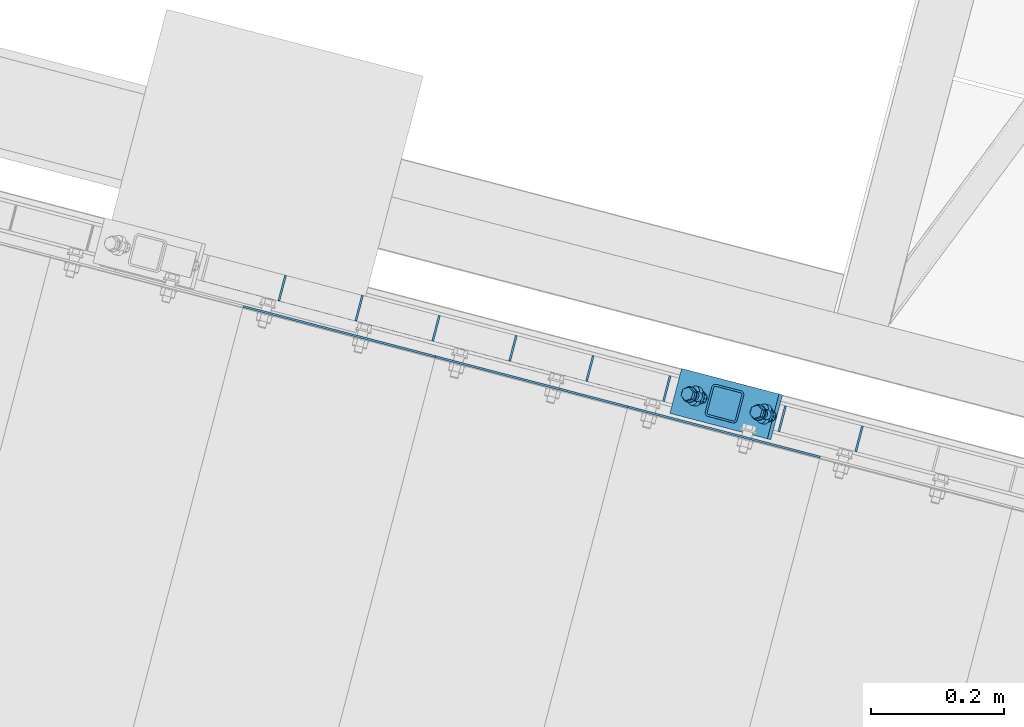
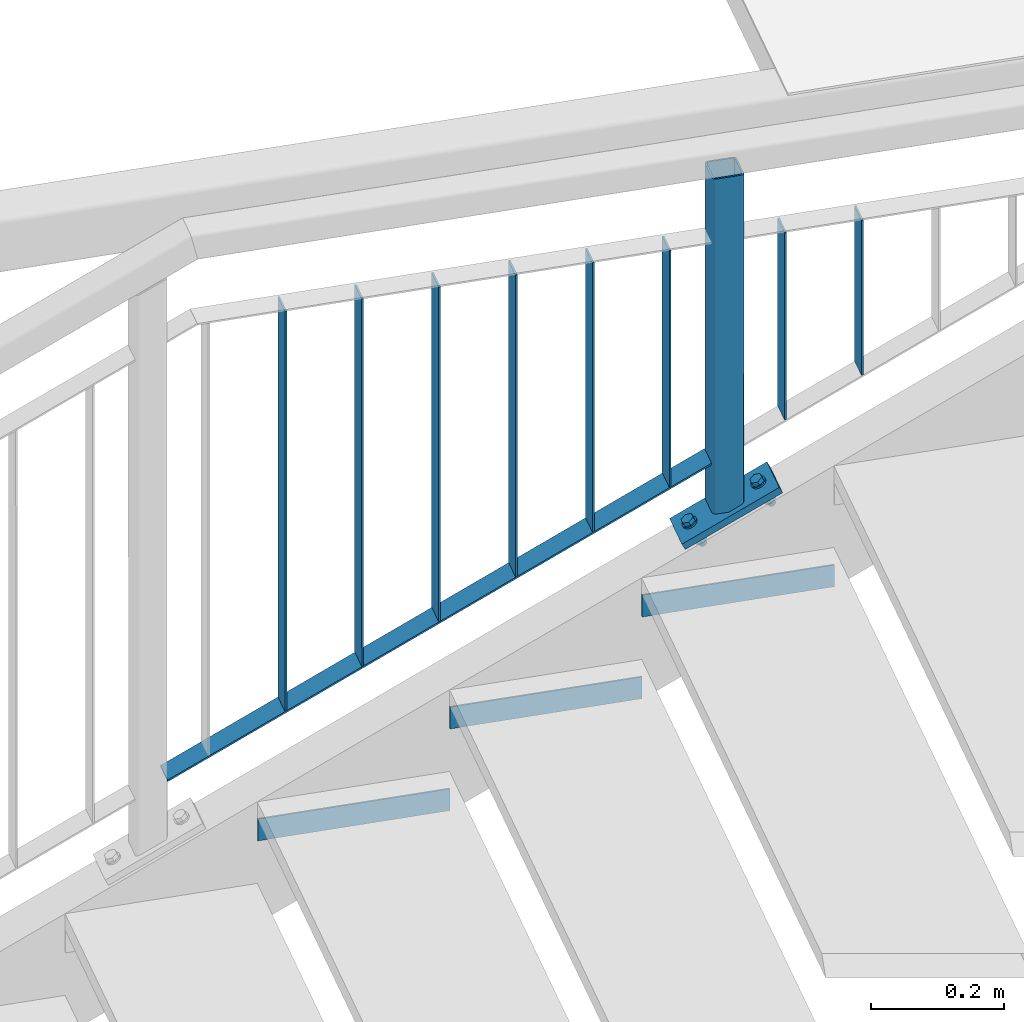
# One storey, part 77 of 169: 14 discrete accessories, 1 mechanical fastener, 4 elements without a shape of their own.
"""IFC2X3 building model written with IfcOpenShell, lengths in millimetres."""

import ifcopenshell
import ifcopenshell.guid

model = None  # the IFC model being written
_history = None  # IfcOwnerHistory: only IFC2X3 demands one
_inside = {}  # id of a spatial element -> (the spatial element, [elements in it])
_under = {}  # id of a project, library or spatial element -> (it, [spatial elements below it])
_declared = {}  # id of a project -> (the project, [libraries it declares])
_typed = {}  # id of a type object -> (the type object, [elements of that type])
_made_of = {}  # id of a material, layer set ... -> (it, [elements and type objects made of it])


def new_model(schema):
    """Start an empty IFC model of exactly this schema.

    Asked for "IFC4X3", IfcOpenShell would pick the latest addendum, in which some entities
    have other attributes; the version numbers below select the first issue.
    IFC2X3 requires an IfcOwnerHistory on every rooted entity: one is made here for all.
    """
    global model, _history
    if schema == "IFC4X3":
        model = ifcopenshell.file(schema_version=(4, 3, 0, 0))
    else:
        model = ifcopenshell.file(schema=schema)
    _inside.clear()
    _under.clear()
    _declared.clear()
    _typed.clear()
    _made_of.clear()
    _history = None
    if model.schema == "IFC2X3":
        org = make("IfcOrganization", Name="unknown")
        user = make(
            "IfcPersonAndOrganization",
            ThePerson=make("IfcPerson", FamilyName="unknown"),
            TheOrganization=org,
        )
        app = make(
            "IfcApplication",
            ApplicationDeveloper=org,
            Version="unknown",
            ApplicationFullName="unknown",
            ApplicationIdentifier="unknown",
        )
        _history = make(
            "IfcOwnerHistory",
            OwningUser=user,
            OwningApplication=app,
            ChangeAction="ADDED",
            CreationDate=0,
        )
    return model


def make(cls, **values):
    """One entity of the class cls with the attributes given. An attribute that is None is left unset."""
    return model.create_entity(
        cls, **{name: value for name, value in values.items() if value is not None}
    )


def rooted(cls, **values):
    """An entity with a GlobalId (a new one), such as an element, a storey or a relation."""
    return make(cls, GlobalId=ifcopenshell.guid.new(), OwnerHistory=_history, **values)


def si_unit(unit_type, name, prefix=None):
    """IfcSIUnit, for example si_unit("LENGTHUNIT", "METRE", prefix="MILLI")."""
    return make("IfcSIUnit", UnitType=unit_type, Prefix=prefix, Name=name)


def assignment(units):
    """IfcUnitAssignment: the units of a project."""
    return None if units is None else make("IfcUnitAssignment", Units=units)


def point(xyz):
    """IfcCartesianPoint."""
    return None if xyz is None else make("IfcCartesianPoint", Coordinates=xyz)


def direction(xyz):
    """IfcDirection."""
    return None if xyz is None else make("IfcDirection", DirectionRatios=xyz)


def frame(location, z_axis=None, x_axis=None):
    """IfcAxis2Placement3D, a coordinate frame: its origin and axes. An axis left out is left unset."""
    return make(
        "IfcAxis2Placement3D",
        Location=point(location),
        Axis=direction(z_axis),
        RefDirection=direction(x_axis),
    )


def frame_2d(location, x_axis=None):
    """IfcAxis2Placement2D, a coordinate frame in the plane: its origin and x axis."""
    return make(
        "IfcAxis2Placement2D", Location=point(location), RefDirection=direction(x_axis)
    )


def origin_with_axes():
    """The frame at (0, 0, 0) with the z axis (0, 0, 1) and the x axis (1, 0, 0) written out."""
    return frame((0.0, 0.0, 0.0), z_axis=(0.0, 0.0, 1.0), x_axis=(1.0, 0.0, 0.0))


def origin_2d_with_axis():
    """The frame at (0, 0) in the plane with the x axis (1, 0) written out."""
    return frame_2d((0.0, 0.0), x_axis=(1.0, 0.0))


def place(relative_to, where):
    """IfcLocalPlacement: puts the frame where relative to a parent placement (None: the world)."""
    return make(
        "IfcLocalPlacement", PlacementRelTo=relative_to, RelativePlacement=where
    )


def context(
    kind, dimensions, precision=None, world=None, true_north=None, identifier=None
):
    """IfcGeometricRepresentationContext, for example the 3D "Model" context."""
    return make(
        "IfcGeometricRepresentationContext",
        ContextIdentifier=identifier,
        ContextType=kind,
        CoordinateSpaceDimension=dimensions,
        Precision=precision,
        WorldCoordinateSystem=world,
        TrueNorth=true_north,
    )


def subcontext(parent, identifier, kind, view, scale=None):
    """IfcGeometricRepresentationSubContext, for example "Body" below "Model"."""
    return make(
        "IfcGeometricRepresentationSubContext",
        ContextIdentifier=identifier,
        ContextType=kind,
        ParentContext=parent,
        TargetScale=scale,
        TargetView=view,
    )


def project(units=None, contexts=None):
    """IfcProject with its units and contexts."""
    return rooted(
        "IfcProject",
        Name="project",
        RepresentationContexts=contexts,
        UnitsInContext=assignment(units),
    )


def spatial(cls, under=None, at=None, **own):
    """A site, building, storey or space (cls), placed at a placement, below another one or the project."""
    s = rooted(cls, ObjectPlacement=at, **own)
    if under is not None:
        _under.setdefault(under.id(), (under, []))[1].append(s)
    return s


def polyline(points):
    """IfcPolyline through the points."""
    return make("IfcPolyline", Points=[point(p) for p in points])


def circle_curve(where, radius):
    """IfcCircle in the frame where."""
    return make("IfcCircle", Position=where, Radius=radius)


def parameter(value):
    """IfcParameterValue: where a trimmed curve begins or ends, as a parameter of its basis curve."""
    return model.create_entity("IfcParameterValue", value)


def trimmed(basis, trim1, trim2, sense, master):
    """IfcTrimmedCurve: the piece of a basis curve between two trims."""
    return make(
        "IfcTrimmedCurve",
        BasisCurve=basis,
        Trim1=trim1,
        Trim2=trim2,
        SenseAgreement=sense,
        MasterRepresentation=master,
    )


def segment(curve, same_sense, transition):
    """IfcCompositeCurveSegment."""
    return make(
        "IfcCompositeCurveSegment",
        Transition=transition,
        SameSense=same_sense,
        ParentCurve=curve,
    )


def composite_curve(segments, self_intersect=None):
    """IfcCompositeCurve: segments joined end to end."""
    return make("IfcCompositeCurve", Segments=segments, SelfIntersect=self_intersect)


def profile(cls, at=None, kind="AREA", **sizes):
    """A parametric profile (cls). Its sizes go by their IFC names, for example OverallWidth=200.0."""
    return make(cls, ProfileType=kind, Position=at, **sizes)


def rectangle(**sizes):
    """IfcRectangleProfileDef."""
    return profile("IfcRectangleProfileDef", **sizes)


def hollow_rectangle(**sizes):
    """IfcRectangleHollowProfileDef."""
    return profile("IfcRectangleHollowProfileDef", **sizes)


def circle(**sizes):
    """IfcCircleProfileDef."""
    return profile("IfcCircleProfileDef", **sizes)


def outline(outer, holes=None, kind="AREA"):
    """IfcArbitraryClosedProfileDef: a profile drawn as a closed curve; with holes, ...WithVoids."""
    if holes is None:
        return make("IfcArbitraryClosedProfileDef", ProfileType=kind, OuterCurve=outer)
    return make(
        "IfcArbitraryProfileDefWithVoids",
        ProfileType=kind,
        OuterCurve=outer,
        InnerCurves=holes,
    )


def extrude(swept, where, along, depth):
    """IfcExtrudedAreaSolid: the profile swept, set in the frame where, extruded along a direction by depth."""
    return make(
        "IfcExtrudedAreaSolid",
        SweptArea=swept,
        Position=where,
        ExtrudedDirection=direction(along),
        Depth=depth,
    )


def boolean(op, a, b):
    """IfcBooleanResult of two solids."""
    return make("IfcBooleanResult", Operator=op, FirstOperand=a, SecondOperand=b)


def clip(a, b, op="DIFFERENCE"):
    """IfcBooleanClippingResult: the solid a cut by the half space b."""
    return make(
        "IfcBooleanClippingResult", Operator=op, FirstOperand=a, SecondOperand=b
    )


def halfspace(plane, agree):
    """IfcHalfSpaceSolid: all space on one side of the plane z = 0 of the frame plane."""
    return make(
        "IfcHalfSpaceSolid",
        BaseSurface=make("IfcPlane", Position=plane),
        AgreementFlag=agree,
    )


def shape(context_of_items, identifier, shape_type, items):
    """IfcShapeRepresentation: the items that make up one representation, for example the "Body"."""
    return make(
        "IfcShapeRepresentation",
        ContextOfItems=context_of_items,
        RepresentationIdentifier=identifier,
        RepresentationType=shape_type,
        Items=items,
    )


def source(mapping_origin, context_of_items, identifier, shape_type, items):
    """IfcRepresentationMap: a shape defined once, which mapped items show again and again."""
    return make(
        "IfcRepresentationMap",
        MappingOrigin=mapping_origin,
        MappedRepresentation=shape(context_of_items, identifier, shape_type, items),
    )


def transform(
    local_origin,
    x_axis=None,
    y_axis=None,
    z_axis=None,
    scale=None,
    scale2=None,
    scale3=None,
    uniform=True,
):
    """IfcCartesianTransformationOperator3D, or its non-uniform kind. x_axis, y_axis, z_axis: its Axis1, 2, 3."""
    if uniform:
        return make(
            "IfcCartesianTransformationOperator3D",
            Axis1=direction(x_axis),
            Axis2=direction(y_axis),
            LocalOrigin=point(local_origin),
            Scale=scale,
            Axis3=direction(z_axis),
        )
    return make(
        "IfcCartesianTransformationOperator3DnonUniform",
        Axis1=direction(x_axis),
        Axis2=direction(y_axis),
        LocalOrigin=point(local_origin),
        Scale=scale,
        Axis3=direction(z_axis),
        Scale2=scale2,
        Scale3=scale3,
    )


def mapped(mapping_source, mapping_target):
    """IfcMappedItem: shows the shape of a source again, moved by a transform."""
    return make(
        "IfcMappedItem", MappingSource=mapping_source, MappingTarget=mapping_target
    )


def material(Name=None, Category=None):
    """IfcMaterial."""
    return make("IfcMaterial", Name=Name, Category=Category)


def made_of(thing, what):
    """Note that an element or type object is made of a material, layer set ...; save() writes the relation."""
    if what is not None:
        _made_of.setdefault(what.id(), (what, []))[1].append(thing)
    return thing


def type_object(cls, material=None, **own):
    """A type object (cls), such as IfcWallType, which elements share."""
    return made_of(rooted(cls, **own), material)


def element(
    cls,
    number,
    at=None,
    inside=None,
    cuts=None,
    type_object=None,
    material=None,
    context=None,
    identifier="Body",
    shape_type=None,
    held_by="IfcProductDefinitionShape",
    body=None,
    shapes=None,
    **own,
):
    """One element of the class cls, such as IfcWall. Its Tag is "e" and its number.

    at: its placement. inside: the storey or other place that contains it. cuts: it is an
    opening in that element (IfcRelVoidsElement). A single representation is given by context,
    identifier, shape_type and body (its items); several are given by shapes. held_by: the class
    of the entity that holds the representations. save() writes the other relations.
    """
    e = rooted(cls, Tag="e%d" % number, ObjectPlacement=at, **own)
    if body is not None:
        shapes = [shape(context, identifier, shape_type, body)]
    if shapes is not None:
        e.Representation = make(held_by, Representations=shapes)
    if inside is not None:
        _inside.setdefault(inside.id(), (inside, []))[1].append(e)
    if cuts is not None:
        rooted(
            "IfcRelVoidsElement", RelatingBuildingElement=cuts, RelatedOpeningElement=e
        )
    if type_object is not None:
        _typed.setdefault(type_object.id(), (type_object, []))[1].append(e)
    return made_of(e, material)


def aggregate(whole, parts):
    """IfcRelAggregates: a whole, such as a stair, and the parts it consists of."""
    return rooted("IfcRelAggregates", RelatingObject=whole, RelatedObjects=parts)


def save(model, path):
    """Write the relations noted so far, then the file.

    IfcRelAggregates (storeys below a building ...), IfcRelContainedInSpatialStructure (elements
    in a storey), IfcRelDefinesByType, IfcRelAssociatesMaterial and IfcRelDeclares: one each for
    every whole, place, type object, material and project.
    """
    for whole, parts in _under.values():
        aggregate(whole, parts)
    for where, things in _inside.values():
        rooted(
            "IfcRelContainedInSpatialStructure",
            RelatedElements=things,
            RelatingStructure=where,
        )
    for kind, things in _typed.values():
        rooted("IfcRelDefinesByType", RelatedObjects=things, RelatingType=kind)
    for what, things in _made_of.values():
        rooted("IfcRelAssociatesMaterial", RelatedObjects=things, RelatingMaterial=what)
    for by, libraries in _declared.values():
        rooted("IfcRelDeclares", RelatingContext=by, RelatedDefinitions=libraries)
    model.write(path)


model = new_model("IFC2X3")

# Units and contexts
model_context = context("Model", 3, precision=1e-05, world=origin_with_axes())
body_context = subcontext(model_context, "Body", "Model", "MODEL_VIEW")
ifc_project = project(units=[si_unit("LENGTHUNIT", "METRE", prefix="MILLI"), si_unit("AREAUNIT", "SQUARE_METRE"), si_unit("VOLUMEUNIT", "CUBIC_METRE"), si_unit("MASSUNIT", "GRAM", prefix="KILO"), si_unit("TIMEUNIT", "SECOND"), si_unit("PLANEANGLEUNIT", "RADIAN"), si_unit("SOLIDANGLEUNIT", "STERADIAN"), si_unit("THERMODYNAMICTEMPERATUREUNIT", "DEGREE_CELSIUS"), si_unit("LUMINOUSINTENSITYUNIT", "LUMEN")], contexts=[model_context])

# Site, building, storey
site_placement = place(None, origin_with_axes())
site = spatial("IfcSite", under=ifc_project, at=site_placement, Name="Undefined", CompositionType="ELEMENT")
building_placement = place(site_placement, origin_with_axes())
building = spatial("IfcBuilding", under=site, at=building_placement, Name="Undefined", CompositionType="ELEMENT")
storey_placement = place(building_placement, origin_with_axes())
storey = spatial("IfcBuildingStorey", under=building, at=storey_placement, Name="Undefined", CompositionType="ELEMENT", Elevation=0.0)

# Assembly, discrete accessories
assembly_1_placement = place(storey_placement, origin_with_axes())
assembly_1 = element("IfcElementAssembly", 1, at=assembly_1_placement, inside=storey, Name="Steel Assembly", AssemblyPlace="NOTDEFINED", PredefinedType="RIGID_FRAME")
ifc_material_1 = material(Name="STEEL/S235")
discrete_accessory_type_1 = type_object("IfcDiscreteAccessoryType", Name="BLACHA")
discrete_accessory_1_placement = place(assembly_1_placement, frame((-25684.8352355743, 8278.68986699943, 13359.2877731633), z_axis=(-0.432715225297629, 0.11294923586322, 0.894427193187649), x_axis=(0.252628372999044, 0.967563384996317, 3.42100000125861e-05)))
discrete_accessory_1 = element("IfcDiscreteAccessory", 2, at=discrete_accessory_1_placement, type_object=discrete_accessory_type_1, material=ifc_material_1, Name="BLACHA", ObjectType="BL12*170", context=body_context, shape_type="SweptSolid", body=[
    extrude(outline(polyline([(5.82076609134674e-11, 84.99999999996), (70.0000000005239, 84.9999999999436), (70.0000000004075, -84.9999999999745), (-5.82076609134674e-11, -84.99999999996), (5.82076609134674e-11, 84.99999999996)])), frame((-1.81898942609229e-12, -1.81898940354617e-12, -5.99999999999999), z_axis=(0.0, 0.0, 1.0), x_axis=(1.0, 0.0, 0.0)), (0.0, 0.0, 1.0), 12.0),
])
discrete_accessory_type_2 = type_object("IfcDiscreteAccessoryType", Name="PORĘCZ")
discrete_accessory_2_placement = place(assembly_1_placement, frame((-26346.1836457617, 8487.64017047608, 14076.9945107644), z_axis=(-0.967563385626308, 0.252628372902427, -1.72000000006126e-07), x_axis=(-3.45692487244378e-05, -0.000132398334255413, -0.999999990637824)))
discrete_accessory_2 = element("IfcDiscreteAccessory", 3, at=discrete_accessory_2_placement, type_object=discrete_accessory_type_2, material=ifc_material_1, Name="PORĘCZ", ObjectType="BL40*3", context=body_context, shape_type="Clipping", body=[
    clip(clip(extrude(outline(polyline([(953.32294910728, 20.0000000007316), (953.322949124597, -19.9999999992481), (218.500000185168, -19.9999999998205), (218.500000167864, 20.0000000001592), (953.32294910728, 20.0000000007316)])), frame((1.81898940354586e-12, -1.77635442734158e-15, -1.50000000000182), z_axis=(0.0, 0.0, 1.0), x_axis=(1.0, 0.0, 0.0)), (0.0, 0.0, 1.0), 3.0), halfspace(frame((218.499999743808, 1000.00000000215, -1.06592779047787e-08), z_axis=(1.0, 0.0, 0.0), x_axis=(-2.54700353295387e-10, 0.0, -1.0)), True)), halfspace(frame((953.658358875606, 1000.00000000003, 0.670820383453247), z_axis=(-0.89442719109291, -3.87067713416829e-10, 0.44721359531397), x_axis=(0.44721359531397, 3.3177479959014e-10, 0.89442719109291)), True)),
])
discrete_accessory_3_placement = place(assembly_1_placement, frame((-26230.0739653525, 8457.33270963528, 14136.9945101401), z_axis=(-0.967563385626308, 0.252628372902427, -1.72000000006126e-07), x_axis=(-3.45692487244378e-05, -0.000132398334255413, -0.999999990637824)))
discrete_accessory_3 = element("IfcDiscreteAccessory", 4, at=discrete_accessory_3_placement, type_object=discrete_accessory_type_2, material=ifc_material_1, Name="PORĘCZ", ObjectType="BL40*3", context=body_context, shape_type="Clipping", body=[
    clip(clip(extrude(outline(polyline([(953.32294910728, 20.0000000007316), (953.322949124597, -19.9999999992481), (278.500000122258, -19.9999999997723), (278.500000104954, 20.0000000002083), (953.32294910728, 20.0000000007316)])), frame((1.81898940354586e-12, -1.77635442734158e-15, -1.50000000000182), z_axis=(0.0, 0.0, 1.0), x_axis=(1.0, 0.0, 0.0)), (0.0, 0.0, 1.0), 3.0), halfspace(frame((278.499999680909, 1000.00000000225, -1.10776454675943e-08), z_axis=(1.0, 0.0, 0.0), x_axis=(-2.54700353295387e-10, 0.0, -1.0)), True)), halfspace(frame((953.658358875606, 1000.00000000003, 0.670820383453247), z_axis=(-0.89442719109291, -3.87067713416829e-10, 0.44721359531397), x_axis=(0.44721359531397, 3.3177479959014e-10, 0.89442719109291)), True)),
])
discrete_accessory_4_placement = place(assembly_1_placement, frame((-26113.9642849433, 8427.02524879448, 14196.9945095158), z_axis=(-0.967563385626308, 0.252628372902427, -1.72000000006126e-07), x_axis=(-3.45692487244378e-05, -0.000132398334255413, -0.999999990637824)))
discrete_accessory_4 = element("IfcDiscreteAccessory", 5, at=discrete_accessory_4_placement, type_object=discrete_accessory_type_2, material=ifc_material_1, Name="PORĘCZ", ObjectType="BL40*3", context=body_context, shape_type="Clipping", body=[
    clip(clip(extrude(outline(polyline([(953.32294910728, 20.0000000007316), (953.322949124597, -19.9999999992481), (338.500000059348, -19.9999999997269), (338.500000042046, 20.0000000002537), (953.32294910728, 20.0000000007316)])), frame((1.81898940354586e-12, -1.77635442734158e-15, -1.50000000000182), z_axis=(0.0, 0.0, 1.0), x_axis=(1.0, 0.0, 0.0)), (0.0, 0.0, 1.0), 3.0), halfspace(frame((338.499999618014, 1000.00000000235, -1.14960130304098e-08), z_axis=(1.0, 0.0, 0.0), x_axis=(-2.54700353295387e-10, 0.0, -1.0)), True)), halfspace(frame((953.658358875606, 1000.00000000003, 0.670820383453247), z_axis=(-0.89442719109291, -3.87067713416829e-10, 0.44721359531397), x_axis=(0.44721359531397, 3.3177479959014e-10, 0.89442719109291)), True)),
])
discrete_accessory_5_placement = place(assembly_1_placement, frame((-25997.8546045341, 8396.71778795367, 14256.9945088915), z_axis=(-0.967563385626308, 0.252628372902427, -1.72000000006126e-07), x_axis=(-3.45692487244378e-05, -0.000132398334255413, -0.999999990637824)))
discrete_accessory_5 = element("IfcDiscreteAccessory", 6, at=discrete_accessory_5_placement, type_object=discrete_accessory_type_2, material=ifc_material_1, Name="PORĘCZ", ObjectType="BL40*3", context=body_context, shape_type="Clipping", body=[
    clip(clip(extrude(outline(polyline([(953.32294910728, 20.0000000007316), (953.322949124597, -19.9999999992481), (398.49999999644, -19.9999999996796), (398.499999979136, 20.0000000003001), (953.32294910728, 20.0000000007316)])), frame((1.81898940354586e-12, -1.77635442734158e-15, -1.50000000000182), z_axis=(0.0, 0.0, 1.0), x_axis=(1.0, 0.0, 0.0)), (0.0, 0.0, 1.0), 3.0), halfspace(frame((398.499999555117, 1000.00000000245, -1.19107426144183e-08), z_axis=(1.0, 0.0, 0.0), x_axis=(-2.54700353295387e-10, 0.0, -1.0)), True)), halfspace(frame((953.658358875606, 1000.00000000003, 0.670820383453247), z_axis=(-0.89442719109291, -3.87067713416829e-10, 0.44721359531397), x_axis=(0.44721359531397, 3.3177479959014e-10, 0.89442719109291)), True)),
])
discrete_accessory_6_placement = place(assembly_1_placement, frame((-25881.7449241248, 8366.41032711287, 14316.9945082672), z_axis=(-0.967563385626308, 0.252628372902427, -1.72000000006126e-07), x_axis=(-3.45692487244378e-05, -0.000132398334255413, -0.999999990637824)))
discrete_accessory_6 = element("IfcDiscreteAccessory", 7, at=discrete_accessory_6_placement, type_object=discrete_accessory_type_2, material=ifc_material_1, Name="PORĘCZ", ObjectType="BL40*3", context=body_context, shape_type="Clipping", body=[
    clip(clip(extrude(outline(polyline([(953.32294910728, 20.0000000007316), (953.322949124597, -19.9999999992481), (458.49999993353, -19.9999999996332), (458.499999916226, 20.0000000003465), (953.32294910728, 20.0000000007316)])), frame((1.81898940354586e-12, -1.77635442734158e-15, -1.50000000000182), z_axis=(0.0, 0.0, 1.0), x_axis=(1.0, 0.0, 0.0)), (0.0, 0.0, 1.0), 3.0), halfspace(frame((458.499999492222, 1000.00000000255, -1.23291101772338e-08), z_axis=(1.0, 0.0, 0.0), x_axis=(-2.54700353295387e-10, 0.0, -1.0)), True)), halfspace(frame((953.658358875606, 1000.00000000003, 0.670820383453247), z_axis=(-0.89442719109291, -3.87067713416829e-10, 0.44721359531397), x_axis=(0.44721359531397, 3.3177479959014e-10, 0.89442719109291)), True)),
])
discrete_accessory_7_placement = place(assembly_1_placement, frame((-25765.6525281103, 8336.03666725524, 13876.9945123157), z_axis=(-0.967563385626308, 0.252628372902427, -1.72000000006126e-07), x_axis=(-3.45692487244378e-05, -0.000132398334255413, -0.999999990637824)))
discrete_accessory_7 = element("IfcDiscreteAccessory", 8, at=discrete_accessory_7_placement, type_object=discrete_accessory_type_2, material=ifc_material_1, Name="PORĘCZ", ObjectType="BL40*3", context=body_context, shape_type="Clipping", body=[
    clip(clip(extrude(outline(polyline([(453.32294900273, 19.9999999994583), (453.322948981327, -20.0000000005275), (18.4999998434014, -20.0000000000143), (18.4999998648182, 19.9999999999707), (453.32294900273, 19.9999999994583)])), frame((1.81898940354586e-12, -1.77635442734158e-15, -1.50000000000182), z_axis=(0.0, 0.0, 1.0), x_axis=(1.0, 0.0, 0.0)), (0.0, 0.0, 1.0), 3.0), halfspace(frame((18.5000003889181, 1000.0000000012, -1.23618519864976e-08), z_axis=(1.0, 0.0, 0.0), x_axis=(-2.54700353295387e-10, 0.0, -1.0)), True)), halfspace(frame((453.658359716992, 1000.00000000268, 0.670820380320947), z_axis=(-0.89442719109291, -3.87067713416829e-10, 0.44721359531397), x_axis=(0.44721359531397, 3.3177479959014e-10, 0.89442719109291)), True)),
])
discrete_accessory_8_placement = place(assembly_1_placement, frame((-25591.484549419, 8290.58871548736, 14066.9945110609), z_axis=(-0.967563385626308, 0.252628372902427, -1.72000000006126e-07), x_axis=(-3.45692487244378e-05, -0.000132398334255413, -0.999999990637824)))
discrete_accessory_8 = element("IfcDiscreteAccessory", 9, at=discrete_accessory_8_placement, type_object=discrete_accessory_type_2, material=ifc_material_1, Name="PORĘCZ", ObjectType="BL40*3", context=body_context, shape_type="Clipping", body=[
    clip(clip(extrude(outline(polyline([(553.322949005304, 19.9999999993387), (553.3229489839, -20.0000000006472), (208.500000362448, -20.0000000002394), (208.500000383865, 19.9999999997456), (553.322949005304, 19.9999999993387)])), frame((1.81898940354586e-12, -1.77635442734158e-15, -1.50000000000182), z_axis=(0.0, 0.0, 1.0), x_axis=(1.0, 0.0, 0.0)), (0.0, 0.0, 1.0), 3.0), halfspace(frame((208.500000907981, 1000.00000000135, -1.29948602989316e-08), z_axis=(1.0, 0.0, 0.0), x_axis=(-2.54700353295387e-10, 0.0, -1.0)), True)), halfspace(frame((553.658359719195, 1000.00000000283, 0.67082037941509), z_axis=(-0.89442719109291, -3.87067713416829e-10, 0.44721359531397), x_axis=(0.44721359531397, 3.3177479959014e-10, 0.89442719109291)), True)),
])
discrete_accessory_9_placement = place(assembly_1_placement, frame((-25475.3783258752, 8260.2680148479, 14026.9945113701), z_axis=(-0.967563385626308, 0.252628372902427, -1.72000000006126e-07), x_axis=(-3.45692487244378e-05, -0.000132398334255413, -0.999999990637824)))
discrete_accessory_9 = element("IfcDiscreteAccessory", 10, at=discrete_accessory_9_placement, type_object=discrete_accessory_type_2, material=ifc_material_1, Name="PORĘCZ", ObjectType="BL40*3", context=body_context, shape_type="Clipping", body=[
    clip(clip(extrude(outline(polyline([(453.32294900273, 19.9999999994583), (453.322948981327, -20.0000000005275), (168.500000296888, -20.0000000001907), (168.500000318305, 19.9999999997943), (453.32294900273, 19.9999999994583)])), frame((1.81898940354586e-12, -1.77635442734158e-15, -1.50000000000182), z_axis=(0.0, 0.0, 1.0), x_axis=(1.0, 0.0, 0.0)), (0.0, 0.0, 1.0), 3.0), halfspace(frame((168.500000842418, 1000.00000000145, -1.34132278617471e-08), z_axis=(1.0, 0.0, 0.0), x_axis=(-2.54700353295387e-10, 0.0, -1.0)), True)), halfspace(frame((453.658359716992, 1000.00000000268, 0.670820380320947), z_axis=(-0.89442719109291, -3.87067713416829e-10, 0.44721359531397), x_axis=(0.44721359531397, 3.3177479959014e-10, 0.89442719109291)), True)),
])
discrete_accessory_10_placement = place(assembly_1_placement, frame((-26549.4086002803, 8540.55178653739, 13016.9945205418), z_axis=(-0.252628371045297, -0.967563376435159, 0.000136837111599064), x_axis=(0.8654304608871, -0.225898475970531, 0.447213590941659)))
discrete_accessory_10 = element("IfcDiscreteAccessory", 11, at=discrete_accessory_10_placement, type_object=discrete_accessory_type_2, material=ifc_material_1, Name="PORĘCZ", ObjectType="BL40*3", context=body_context, shape_type="CSG", body=[
    boolean("DIFFERENCE", boolean("DIFFERENCE", boolean("DIFFERENCE", boolean("DIFFERENCE", extrude(rectangle(XDim=3.0, YDim=40.0, at=origin_2d_with_axis()), frame((996.331218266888, -5.53074929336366e-14, -2.49744430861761e-13), z_axis=(-1.0, -3.46944695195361e-18, -1.38777878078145e-17), x_axis=(1.73472347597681e-18, -1.0, 0.0)), (0.0, 0.0, 1.0), 986.43), extrude(rectangle(XDim=51.0, YDim=51.0, at=origin_2d_with_axis()), frame((62.609903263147, 125.219806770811, -1.03546508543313e-07), z_axis=(-0.44721359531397, -0.89442719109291, 6.42512531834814e-12), x_axis=(0.894427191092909, -0.447213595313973, -3.67723235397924e-10)), (0.0, 0.0, 1.0), 280.0)), extrude(rectangle(XDim=51.0, YDim=51.0, at=origin_2d_with_axis()), frame((1068.84049431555, 125.219806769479, -4.89614646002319e-07), z_axis=(-0.44721359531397, -0.89442719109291, 6.42512531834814e-12), x_axis=(0.894427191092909, -0.447213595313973, -3.67723235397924e-10)), (0.0, 0.0, 1.0), 280.0)), halfspace(frame((983.86991090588, 11.1803398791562, 999.999999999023), z_axis=(-0.89442719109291, 0.44721359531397, 3.67724048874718e-10), x_axis=(-0.44721359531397, -0.89442719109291, 6.42512531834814e-12)), True)), halfspace(frame((22.36067942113, -11.1803398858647, 1000.00000000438), z_axis=(0.894427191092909, -0.447213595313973, -3.67723235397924e-10), x_axis=(0.447213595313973, 0.894427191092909, -6.42523900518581e-12)), True)),
])
discrete_accessory_type_3 = type_object("IfcDiscreteAccessoryType", Name="STANCHION")
discrete_accessory_11_placement = place(assembly_1_placement, frame((-25678.5900406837, 8313.23033980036, 13349.994517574), z_axis=(3.4552000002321e-05, 0.000132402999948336, 0.999999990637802), x_axis=(0.252628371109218, 0.967563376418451, -0.000136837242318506)))
discrete_accessory_11 = element("IfcDiscreteAccessory", 12, at=discrete_accessory_11_placement, type_object=discrete_accessory_type_3, material=ifc_material_1, Name="STANCHION", ObjectType="SHS50*3", context=body_context, shape_type="Clipping", body=[
    clip(clip(extrude(hollow_rectangle(XDim=50.0, YDim=50.0, WallThickness=3.0, InnerFilletRadius=3.0, OuterFilletRadius=6.0, at=origin_2d_with_axis()), frame((1.4210854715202e-13, -3.63798043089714e-12, 629.999999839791), z_axis=(-2.54700353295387e-10, 0.0, -1.0), x_axis=(0.0, 1.0, 0.0)), (0.0, 0.0, 1.0), 615.34), halfspace(frame((999.999999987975, -1.62071955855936e-08, 629.999999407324), z_axis=(-2.54700353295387e-10, 0.0, -1.0), x_axis=(0.0, 1.0, 0.0)), True)), halfspace(frame((999.999067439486, 2.68328154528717, 13.4904219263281), z_axis=(-0.00015298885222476, 0.447213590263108, 0.894427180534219), x_axis=(-7.64941891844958e-05, -0.894427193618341, 0.447213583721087)), True)),
])

# Assembly, discrete accessory
assembly_2_placement = place(storey_placement, origin_with_axes())
assembly_2 = element("IfcElementAssembly", 13, at=assembly_2_placement, inside=storey, Name="Steel Assembly", AssemblyPlace="NOTDEFINED", PredefinedType="RIGID_FRAME")
ifc_material_2 = material(Name="STEEL/S235JR")
discrete_accessory_type_4 = type_object("IfcDiscreteAccessoryType", Name="ANGLE")
discrete_accessory_12_placement = place(assembly_2_placement, frame((-25824.5816332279, 8308.44723811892, 13230.0957858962), z_axis=(-0.252562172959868, -0.967580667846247, 0.0), x_axis=(0.967580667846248, -0.252562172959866, 0.0)))
discrete_accessory_12 = element("IfcDiscreteAccessory", 14, at=discrete_accessory_12_placement, type_object=discrete_accessory_type_4, material=ifc_material_2, Name="ANGLE", ObjectType="3*40", context=body_context, shape_type="SweptSolid", body=[
    extrude(rectangle(XDim=40.0, YDim=3.0, at=origin_2d_with_axis()), frame((300.000000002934, 1.81898940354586e-12, -1.81898940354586e-12), z_axis=(-1.0, -3.46944695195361e-18, -1.38777878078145e-17), x_axis=(1.73472347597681e-18, -1.0, 0.0)), (0.0, 0.0, 1.0), 300.0),
])
aggregate(assembly_2, [discrete_accessory_12])

assembly_3_placement = place(storey_placement, origin_with_axes())
assembly_3 = element("IfcElementAssembly", 15, at=assembly_3_placement, inside=storey, Name="Steel Assembly", AssemblyPlace="NOTDEFINED", PredefinedType="RIGID_FRAME")
discrete_accessory_13_placement = place(assembly_3_placement, frame((-26114.8558369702, 8384.21589092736, 13080.0957858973), z_axis=(-0.252562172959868, -0.967580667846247, 0.0), x_axis=(0.967580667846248, -0.252562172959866, 0.0)))
discrete_accessory_13 = element("IfcDiscreteAccessory", 16, at=discrete_accessory_13_placement, type_object=discrete_accessory_type_4, material=ifc_material_2, Name="ANGLE", ObjectType="3*40", context=body_context, shape_type="SweptSolid", body=[
    extrude(rectangle(XDim=40.0, YDim=3.0, at=origin_2d_with_axis()), frame((300.000000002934, 1.81898940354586e-12, -1.81898940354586e-12), z_axis=(-1.0, -3.46944695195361e-18, -1.38777878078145e-17), x_axis=(1.73472347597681e-18, -1.0, 0.0)), (0.0, 0.0, 1.0), 300.0),
])
aggregate(assembly_3, [discrete_accessory_13])

assembly_4_placement = place(storey_placement, origin_with_axes())
assembly_4 = element("IfcElementAssembly", 17, at=assembly_4_placement, inside=storey, Name="Steel Assembly", AssemblyPlace="NOTDEFINED", PredefinedType="RIGID_FRAME")
discrete_accessory_14_placement = place(assembly_4_placement, frame((-26405.1300407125, 8459.98454373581, 12930.0957858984), z_axis=(-0.252562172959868, -0.967580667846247, 0.0), x_axis=(0.967580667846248, -0.252562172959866, 0.0)))
discrete_accessory_14 = element("IfcDiscreteAccessory", 18, at=discrete_accessory_14_placement, type_object=discrete_accessory_type_4, material=ifc_material_2, Name="ANGLE", ObjectType="3*40", context=body_context, shape_type="SweptSolid", body=[
    extrude(rectangle(XDim=40.0, YDim=3.0, at=origin_2d_with_axis()), frame((300.000000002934, 1.81898940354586e-12, -1.81898940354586e-12), z_axis=(-1.0, -3.46944695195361e-18, -1.38777878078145e-17), x_axis=(1.73472347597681e-18, -1.0, 0.0)), (0.0, 0.0, 1.0), 300.0),
])
aggregate(assembly_4, [discrete_accessory_14])

# Mechanical fastener
ifc_material_3 = material(Name="Undefined")
discrete_accessory_type_5 = type_object("IfcDiscreteAccessoryType", Name="Bolt assembly")
shared_shape = source(origin_with_axes(), body_context, "Body", "SweptSolid", [
    extrude(outline(composite_curve([segment(polyline([(-7.5, 7.5), (7.5, 7.5)]), True, "CONTINUOUS"), segment(trimmed(circle_curve(frame_2d((7.5, 0.0), x_axis=(0.0, 1.0)), 7.5), [parameter(0.0)], [parameter(3.14159265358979)], False, "PARAMETER"), True, "CONTINUOUS"), segment(polyline([(7.5, -7.5), (-7.5, -7.5)]), True, "CONTINUOUS"), segment(trimmed(circle_curve(frame_2d((-7.5, 0.0), x_axis=(0.0, -1.0)), 7.5), [parameter(0.0)], [parameter(3.14159265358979)], False, "PARAMETER"), True, "DISCONTINUOUS")], self_intersect=False)), frame((0.0, 0.649999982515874, 0.0), z_axis=(0.0, 1.0, 0.0), x_axis=(1.0, 0.0, 0.0)), (0.0, 0.0, 1.0), 11.6),
    extrude(outline(composite_curve([segment(polyline([(7.5, 7.5), (7.5, -7.5)]), True, "CONTINUOUS"), segment(trimmed(circle_curve(frame_2d((0.0, -7.5), x_axis=(1.0, 0.0)), 7.5), [parameter(0.0)], [parameter(3.14159265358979)], False, "PARAMETER"), True, "CONTINUOUS"), segment(polyline([(-7.5, -7.5), (-7.5, 7.5)]), True, "CONTINUOUS"), segment(trimmed(circle_curve(frame_2d((0.0, 7.5), x_axis=(-1.0, 0.0)), 7.5), [parameter(0.0)], [parameter(3.14159265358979)], False, "PARAMETER"), True, "DISCONTINUOUS")], self_intersect=False)), frame((0.0, -12.1500000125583, 0.0), z_axis=(0.0, 1.0, 0.0), x_axis=(1.0, 0.0, 0.0)), (0.0, 0.0, 1.0), 12.0),
    extrude(outline(polyline([(10.39230484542, 0.0), (5.19615242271, 9.00000000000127), (-5.19615242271, 9.00000000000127), (-10.39230484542, 0.0), (-5.19615242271, -9.00000000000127), (5.19615242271, -9.00000000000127), (10.39230484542, 0.0)])), frame((0.0, -22.7500000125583, 0.0), z_axis=(0.0, 1.0, 0.0), x_axis=(1.0, 0.0, 0.0)), (0.0, 0.0, 1.0), 7.5),
    extrude(circle(Radius=6.0, at=origin_2d_with_axis()), frame((0.0, -15.2500000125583, 0.0), z_axis=(0.0, 1.0, 0.0), x_axis=(1.0, 0.0, 0.0)), (0.0, 0.0, 1.0), 50.0),
    extrude(circle(Radius=12.0, at=origin_2d_with_axis()), frame((0.0, -15.2500000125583, 0.0), z_axis=(0.0, 1.0, 0.0), x_axis=(1.0, 0.0, 0.0)), (0.0, 0.0, 1.0), 3.0),
    extrude(circle(Radius=12.0, at=origin_2d_with_axis()), frame((0.0, 12.2499999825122, 0.0), z_axis=(0.0, 1.0, 0.0), x_axis=(1.0, 0.0, 0.0)), (0.0, 0.0, 1.0), 3.0),
    extrude(outline(polyline([(10.96965511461, 0.0), (5.484827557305, 9.50000000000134), (-5.484827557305, 9.50000000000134), (-10.96965511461, 0.0), (-5.484827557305, -9.50000000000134), (5.484827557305, -9.50000000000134), (10.96965511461, 0.0)])), frame((0.0, 15.2499999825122, 0.0), z_axis=(0.0, 1.0, 0.0), x_axis=(1.0, 0.0, 0.0)), (0.0, 0.0, 1.0), 10.0),
])
mechanical_fastener_placement = place(assembly_1_placement, frame((-25666.9730629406, 8336.03773772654, 13353.6996557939), z_axis=(0.86541113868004, -0.22597248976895, 0.447213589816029), x_axis=(-0.252628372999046, -0.967563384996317, -3.42099999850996e-05)))
mechanical_fastener = element("IfcMechanicalFastener", 19, at=mechanical_fastener_placement, type_object=discrete_accessory_type_5, material=ifc_material_3, Name="Bolt assembly", NominalDiameter=12.0, NominalLength=50.0, context=body_context, shape_type="MappedRepresentation", body=[
    mapped(shared_shape, transform((24.9999999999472, 0.0, -60.0000000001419))),
    mapped(shared_shape, transform((24.9999999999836, -3.54702933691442e-11, 60.0000000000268))),
])

aggregate(assembly_1, [discrete_accessory_2, discrete_accessory_3, discrete_accessory_4, discrete_accessory_5, discrete_accessory_6, discrete_accessory_7, discrete_accessory_8, discrete_accessory_9, discrete_accessory_10, mechanical_fastener, discrete_accessory_1, discrete_accessory_11])

save(model, "model.ifc")
